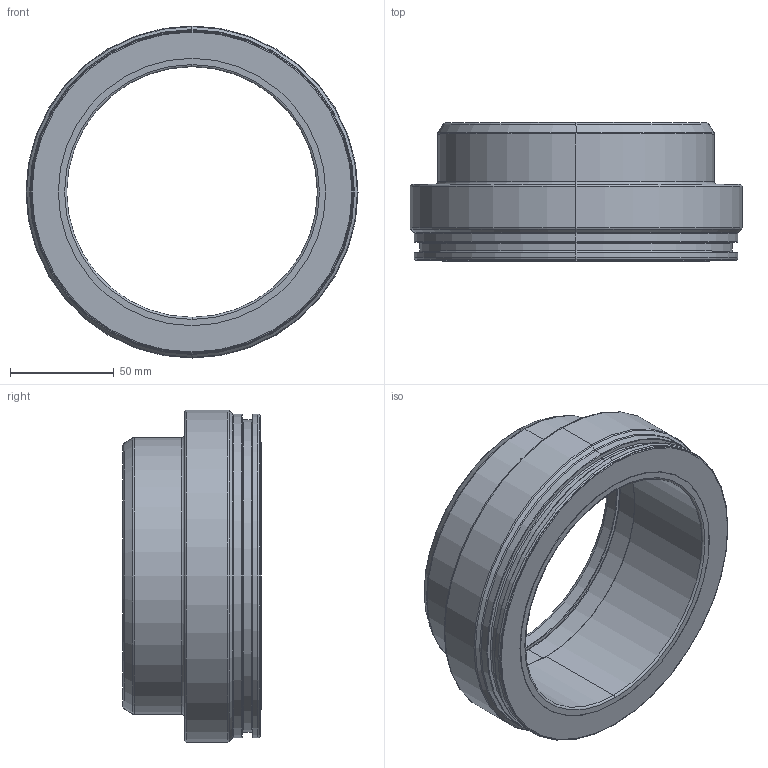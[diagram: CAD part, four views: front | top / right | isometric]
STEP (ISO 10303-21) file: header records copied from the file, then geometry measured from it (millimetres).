
FILE_DESCRIPTION(('CATIA V5 STEP Exchange','CAx-IF Rec.Pracs.--- Composite Materials ---3.4---2017-06-13'),'2;1');
FILE_NAME('C:\Users\PM610867\AppData\Local\ST-WORK_R32_PROD\Liasse-PDF\IEM_PEPSI_CEG_DEF_K_1229_201-BAGUE_EPAULEE_TUBE_CENTRAL-B.stp','2025-03-31T12:19:36+00:00',('none'),('none'),'CATIA Version 5-6 Release 2022 SP2','CATIA V5 STEP AP203 v2','none');
FILE_SCHEMA(('CONFIG_CONTROL_DESIGN'));
Length unit declared in the file: millimetre
Products named in the file (1): IEM PEPSI CEG DEF K 1229 201
Bounding box: 160 x 66.8 x 160 mm (x, y, z)
Volume: 356820.6 mm3; surface area: 74823.4 mm2
Topology: 1 solids, 1 shells, 72 faces, 144 edges, 80 vertices
Faces by surface type: torus 40, cylinder 18, plane 8, cone 6
Entity records: 1638 total; most frequent: ORIENTED_EDGE 288, CARTESIAN_POINT 263, DIRECTION 220, AXIS2_PLACEMENT_3D 159, EDGE_CURVE 144, CIRCLE 120, EDGE_LOOP 80, VERTEX_POINT 80
